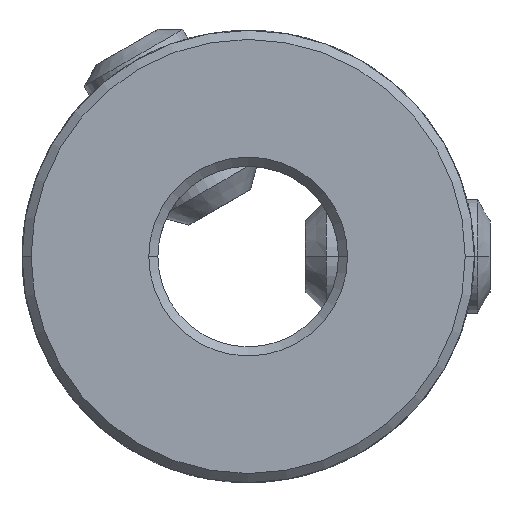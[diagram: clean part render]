
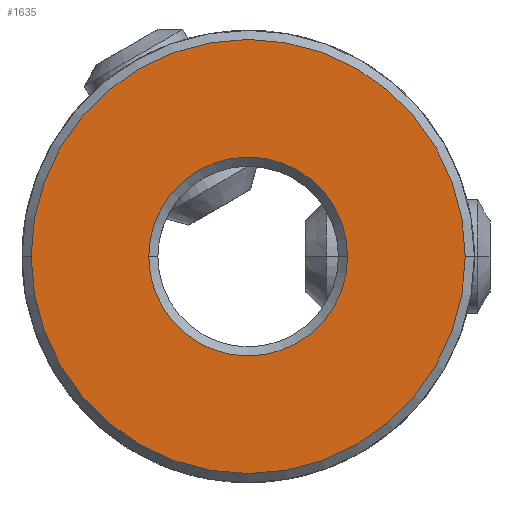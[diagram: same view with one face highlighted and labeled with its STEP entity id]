
A CAD part, front view. The second image highlights one B-rep face of the part: STEP entity #1635.
In plain terms, the highlighted planar face has unit normal (0, -1, 0).
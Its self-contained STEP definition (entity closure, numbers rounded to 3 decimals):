
#2=CARTESIAN_POINT('',(0.,-10.,
0.));
#3=DIRECTION('',(0.,-1.,0.));
#4=DIRECTION('',(1.,0.,0.));
#5=AXIS2_PLACEMENT_3D('',#2,#3,#4);
#7=CARTESIAN_POINT('',(0.,-10.,0.));
#8=DIRECTION('',(0.,-1.,0.));
#9=DIRECTION('',(-1.,0.,0.));
#10=AXIS2_PLACEMENT_3D('',#7,#8,#9);
#12=CARTESIAN_POINT('',(0.,-10.,0.));
#13=DIRECTION('',(0.,1.,0.));
#14=DIRECTION('',(1.,0.,0.));
#15=AXIS2_PLACEMENT_3D('',#12,#13,#14);
#17=CARTESIAN_POINT('',(0.,-10.,0.));
#18=DIRECTION('',(0.,1.,0.));
#19=DIRECTION('',(-1.,0.,0.));
#20=AXIS2_PLACEMENT_3D('',#17,#18,#19);
#1490=CARTESIAN_POINT('',(3.495,-10.,0.));
#1491=CARTESIAN_POINT('',(-3.495,-10.,0.));
#1492=VERTEX_POINT('',#1490);
#1493=VERTEX_POINT('',#1491);
#1506=CARTESIAN_POINT('',(7.63,-10.,0.));
#1507=CARTESIAN_POINT('',(-7.63,-10.,0.));
#1508=VERTEX_POINT('',#1506);
#1509=VERTEX_POINT('',#1507);
#1618=CARTESIAN_POINT('',(0.,-10.,0.));
#1619=DIRECTION('',(0.,1.,0.));
#1620=DIRECTION('',(1.,0.,0.));
#1621=AXIS2_PLACEMENT_3D('',#1618,#1619,#1620);
#1622=PLANE('',#1621);
#1624=ORIENTED_EDGE('',*,*,#1623,.F.);
#1626=ORIENTED_EDGE('',*,*,#1625,.F.);
#1627=EDGE_LOOP('',(#1624,#1626));
#1628=FACE_OUTER_BOUND('',#1627,.F.);
#1630=ORIENTED_EDGE('',*,*,#1629,.F.);
#1632=ORIENTED_EDGE('',*,*,#1631,.F.);
#1633=EDGE_LOOP('',(#1630,#1632));
#1634=FACE_BOUND('',#1633,.F.);
#1635=ADVANCED_FACE('',(#1628,#1634),#1622,.F.);
#6=CIRCLE('',#5,7.63);
#11=CIRCLE('',#10,7.63);
#16=CIRCLE('',#15,3.495);
#21=CIRCLE('',#20,3.495);
#1623=EDGE_CURVE('',#1508,#1509,#6,.T.);
#1625=EDGE_CURVE('',#1509,#1508,#11,.T.);
#1629=EDGE_CURVE('',#1492,#1493,#16,.T.);
#1631=EDGE_CURVE('',#1493,#1492,#21,.T.);
